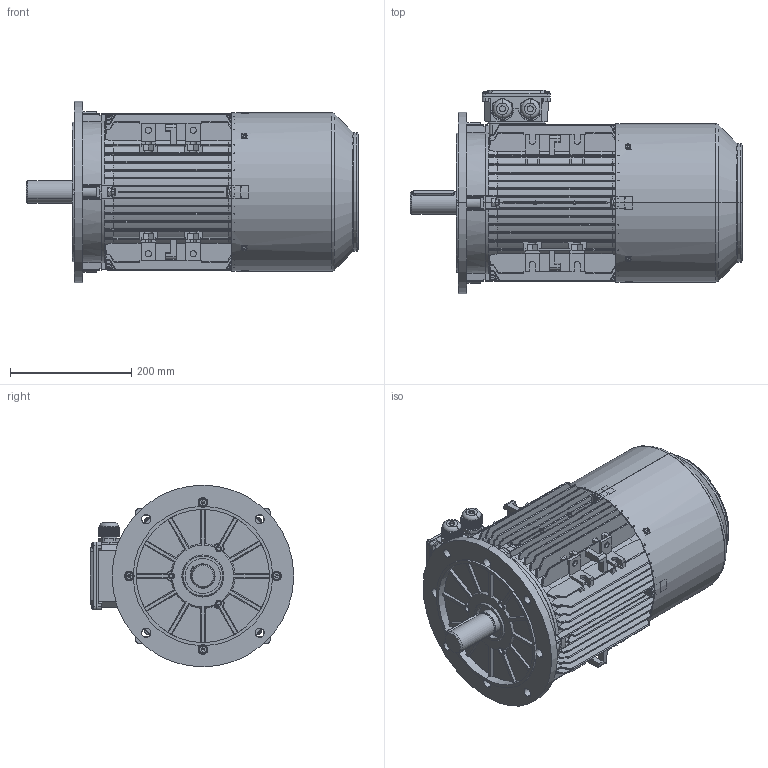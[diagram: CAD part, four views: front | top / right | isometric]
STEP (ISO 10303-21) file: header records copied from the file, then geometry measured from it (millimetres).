
FILE_DESCRIPTION (( 'STEP AP203' ), '1' );
FILE_NAME ('TB132S B5（风罩不带手柄孔）.STEP', '2021-10-26T02:06:43', ( '' ), ( '' ), 'SwSTEP 2.0', 'SolidWorks 2014', '' );
FILE_SCHEMA (( 'CONFIG_CONTROL_DESIGN' ));
Length unit declared in the file: millimetre
Products named in the file (14): 112怢宒瑞珔; Hexagon nuts grade C GB_GB_FASTENER_NUT_SNC1 M8-N; TB132S蛌粣; MS132諉盄碟裔; Cross recessed thread forming screws GB_GB_CROSS_SCREWS_TYPE138 M5X12-N; Plain parallel keys_GB_CONNECTING_PIECE_KEYS_CSK 10X70; TA132B5楊擘1; 112-132堤盄蹟杶; TB132瑞欶(祥湍忒梟謂); Hexagon socket head cap screws GB_GB_FASTENER_SCREWS_HSHCS M8X35-N; TB132S B5（风罩不带手柄孔）; T132S儂褲; MS132諉盄碟釱; TB132綴裔
Assembly tree (35 placements, depth 2):
  TB132S B5（风罩不带手柄孔）
    T132S儂褲
    TB132S蛌粣
    112-132堤盄蹟杶  x2
    TB132綴裔
    Cross recessed thread forming screws GB_GB_CROSS_SCREWS_TYPE138 M5X12-N  x8
    Hexagon socket head cap screws GB_GB_FASTENER_SCREWS_HSHCS M8X35-N  x8
    Hexagon nuts grade C GB_GB_FASTENER_NUT_SNC1 M8-N  x8
    TA132B5楊擘1
    MS132諉盄碟釱
    MS132諉盄碟裔
    TB132瑞欶(祥湍忒梟謂)
    112怢宒瑞珔
    Plain parallel keys_GB_CONNECTING_PIECE_KEYS_CSK 10X70
Bounding box: 548 x 336 x 300 mm (x, y, z)
Volume: 3887204.5 mm3; surface area: 1866355.2 mm2
Topology: 35 solids, 35 shells, 5283 faces, 14386 edges, 9132 vertices
Faces by surface type: plane 2793, cylinder 1241, bspline 687, cone 359, torus 187, sphere 16
Entity records: 174768 total; most frequent: CARTESIAN_POINT 63668, ORIENTED_EDGE 24916, DIRECTION 19689, EDGE_CURVE 12458, VERTEX_POINT 7997, LINE 6841, VECTOR 6841, AXIS2_PLACEMENT_3D 6424
